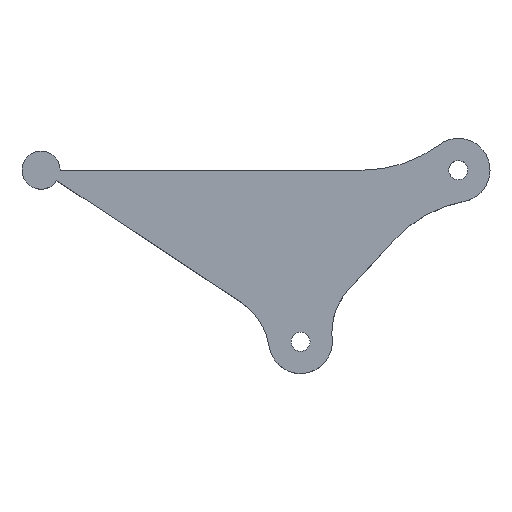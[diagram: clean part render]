
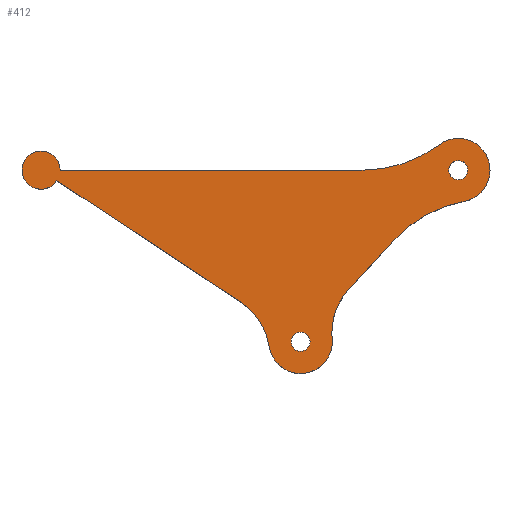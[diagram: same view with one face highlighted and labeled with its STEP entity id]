
A CAD part, top view. The second image highlights one B-rep face of the part: STEP entity #412.
In plain terms, the highlighted planar face has unit normal (0, 0, 1).
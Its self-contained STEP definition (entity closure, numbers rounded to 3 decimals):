
#25 = EDGE_CURVE ( 'NONE', #76, #529, #1094, .T. ) ;
#28 = ORIENTED_EDGE ( 'NONE', *, *, #1202, .T. ) ;
#30 = LINE ( 'NONE', #348, #1075 ) ;
#31 = DIRECTION ( 'NONE',  ( 1., 0., 0. ) ) ;
#45 = DIRECTION ( 'NONE',  ( -1., 0., 0. ) ) ;
#60 = DIRECTION ( 'NONE',  ( 0., 0., 1. ) ) ;
#76 = VERTEX_POINT ( 'NONE', #1155 ) ;
#77 = DIRECTION ( 'NONE',  ( 0., 0., 1. ) ) ;
#85 = CIRCLE ( 'NONE', #863, 5. ) ;
#90 = CARTESIAN_POINT ( 'NONE',  ( -3., 4., 12. ) ) ;
#100 = AXIS2_PLACEMENT_3D ( 'NONE', #737, #747, #561 ) ;
#102 = CARTESIAN_POINT ( 'NONE',  ( -19.9, -25.559, 12. ) ) ;
#116 = DIRECTION ( 'NONE',  ( 0., 0., -1. ) ) ;
#128 = EDGE_CURVE ( 'NONE', #529, #76, #1002, .T. ) ;
#145 = CARTESIAN_POINT ( 'NONE',  ( 0., 0., 12. ) ) ;
#151 = CARTESIAN_POINT ( 'NONE',  ( 4.581, -24.577, 12. ) ) ;
#175 = EDGE_LOOP ( 'NONE', ( #674, #1147 ) ) ;
#194 = ORIENTED_EDGE ( 'NONE', *, *, #822, .F. ) ;
#208 = CARTESIAN_POINT ( 'NONE',  ( -24.828, -27.027, 12. ) ) ;
#214 = EDGE_CURVE ( 'NONE', #883, #851, #1243, .T. ) ;
#216 = CARTESIAN_POINT ( 'NONE',  ( 0.916, -4.915, 12. ) ) ;
#223 = CARTESIAN_POINT ( 'NONE',  ( -24.828, -27.027, 12. ) ) ;
#231 = CARTESIAN_POINT ( 'NONE',  ( -9.9, -25.559, 12. ) ) ;
#234 = CIRCLE ( 'NONE', #257, 5. ) ;
#245 = CIRCLE ( 'NONE', #466, 3. ) ;
#257 = AXIS2_PLACEMENT_3D ( 'NONE', #1131, #1125, #1025 ) ;
#273 = VECTOR ( 'NONE', #1256, 1000. ) ;
#281 = DIRECTION ( 'NONE',  ( 0., 0., 1. ) ) ;
#290 = AXIS2_PLACEMENT_3D ( 'NONE', #1000, #77, #776 ) ;
#299 = CIRCLE ( 'NONE', #476, 20. ) ;
#320 = CIRCLE ( 'NONE', #626, 10. ) ;
#321 = ORIENTED_EDGE ( 'NONE', *, *, #614, .T. ) ;
#328 = ORIENTED_EDGE ( 'NONE', *, *, #788, .F. ) ;
#335 = DIRECTION ( 'NONE',  ( 0., 0., 1. ) ) ;
#337 = ORIENTED_EDGE ( 'NONE', *, *, #939, .T. ) ;
#348 = CARTESIAN_POINT ( 'NONE',  ( -19.988, -30.227, 12. ) ) ;
#353 = CARTESIAN_POINT ( 'NONE',  ( -17.264, -18.794, 12. ) ) ;
#358 = DIRECTION ( 'NONE',  ( 1., 0., 0. ) ) ;
#364 = CARTESIAN_POINT ( 'NONE',  ( -65.7, 0., 12. ) ) ;
#378 = VERTEX_POINT ( 'NONE', #590 ) ;
#385 = VERTEX_POINT ( 'NONE', #1180 ) ;
#389 = CIRCLE ( 'NONE', #667, 1.5 ) ;
#392 = DIRECTION ( 'NONE',  ( 1., 0., 0. ) ) ;
#394 = CARTESIAN_POINT ( 'NONE',  ( 1.5, 0., 12. ) ) ;
#397 = VERTEX_POINT ( 'NONE', #471 ) ;
#401 = CARTESIAN_POINT ( 'NONE',  ( -65.7, 0., 12. ) ) ;
#412 = ADVANCED_FACE ( 'NONE', ( #985, #599, #1283 ), #575, .T. ) ;
#418 = CARTESIAN_POINT ( 'NONE',  ( -63.198, -1.655, 12. ) ) ;
#426 = AXIS2_PLACEMENT_3D ( 'NONE', #441, #335, #536 ) ;
#433 = DIRECTION ( 'NONE',  ( 0., 0., 1. ) ) ;
#441 = CARTESIAN_POINT ( 'NONE',  ( 0., 0., 12. ) ) ;
#442 = ORIENTED_EDGE ( 'NONE', *, *, #728, .F. ) ;
#445 = CARTESIAN_POINT ( 'NONE',  ( -39.669, -29.202, 12. ) ) ;
#453 = CARTESIAN_POINT ( 'NONE',  ( -29.775, -27.752, 12. ) ) ;
#466 = AXIS2_PLACEMENT_3D ( 'NONE', #364, #60, #670 ) ;
#471 = CARTESIAN_POINT ( 'NONE',  ( -62.7, 0., 12. ) ) ;
#476 = AXIS2_PLACEMENT_3D ( 'NONE', #151, #1319, #1035 ) ;
#481 = VERTEX_POINT ( 'NONE', #90 ) ;
#484 = ORIENTED_EDGE ( 'NONE', *, *, #879, .T. ) ;
#490 = VERTEX_POINT ( 'NONE', #1030 ) ;
#493 = CIRCLE ( 'NONE', #100, 20. ) ;
#496 = VERTEX_POINT ( 'NONE', #1216 ) ;
#497 = CARTESIAN_POINT ( 'NONE',  ( -15., 0., 12. ) ) ;
#518 = VERTEX_POINT ( 'NONE', #102 ) ;
#522 = AXIS2_PLACEMENT_3D ( 'NONE', #906, #281, #801 ) ;
#529 = VERTEX_POINT ( 'NONE', #394 ) ;
#536 = DIRECTION ( 'NONE',  ( 1., 0., 0. ) ) ;
#545 = VERTEX_POINT ( 'NONE', #418 ) ;
#561 = DIRECTION ( 'NONE',  ( 1., 0., 0. ) ) ;
#575 = PLANE ( 'NONE',  #290 ) ;
#590 = CARTESIAN_POINT ( 'NONE',  ( -26.328, -27.027, 12. ) ) ;
#599 = FACE_OUTER_BOUND ( 'NONE', #1151, .T. ) ;
#614 = EDGE_CURVE ( 'NONE', #481, #1157, #493, .T. ) ;
#617 = VERTEX_POINT ( 'NONE', #353 ) ;
#626 = AXIS2_PLACEMENT_3D ( 'NONE', #231, #650, #657 ) ;
#634 = CARTESIAN_POINT ( 'NONE',  ( -23.328, -27.027, 12. ) ) ;
#650 = DIRECTION ( 'NONE',  ( 0., 0., -1. ) ) ;
#657 = DIRECTION ( 'NONE',  ( 1., 0., 0. ) ) ;
#667 = AXIS2_PLACEMENT_3D ( 'NONE', #223, #949, #1175 ) ;
#670 = DIRECTION ( 'NONE',  ( 1., 0., 0. ) ) ;
#674 = ORIENTED_EDGE ( 'NONE', *, *, #25, .F. ) ;
#706 = DIRECTION ( 'NONE',  ( 0., 0., 1. ) ) ;
#728 = EDGE_CURVE ( 'NONE', #496, #617, #1263, .T. ) ;
#737 = CARTESIAN_POINT ( 'NONE',  ( -15., 20., 12. ) ) ;
#747 = DIRECTION ( 'NONE',  ( 0., 0., -1. ) ) ;
#769 = DIRECTION ( 'NONE',  ( 0., 0., -1. ) ) ;
#776 = DIRECTION ( 'NONE',  ( 1., 0., 0. ) ) ;
#786 = EDGE_LOOP ( 'NONE', ( #194, #1209 ) ) ;
#788 = EDGE_CURVE ( 'NONE', #883, #545, #30, .T. ) ;
#794 = ORIENTED_EDGE ( 'NONE', *, *, #882, .T. ) ;
#795 = VECTOR ( 'NONE', #45, 1000. ) ;
#801 = DIRECTION ( 'NONE',  ( 1., 0., 0. ) ) ;
#822 = EDGE_CURVE ( 'NONE', #378, #1249, #389, .T. ) ;
#823 = ORIENTED_EDGE ( 'NONE', *, *, #214, .T. ) ;
#840 = LINE ( 'NONE', #145, #795 ) ;
#841 = EDGE_CURVE ( 'NONE', #1157, #397, #840, .T. ) ;
#847 = ORIENTED_EDGE ( 'NONE', *, *, #1104, .T. ) ;
#851 = VERTEX_POINT ( 'NONE', #453 ) ;
#863 = AXIS2_PLACEMENT_3D ( 'NONE', #208, #1339, #392 ) ;
#866 = ORIENTED_EDGE ( 'NONE', *, *, #1208, .T. ) ;
#879 = EDGE_CURVE ( 'NONE', #385, #518, #320, .T. ) ;
#882 = EDGE_CURVE ( 'NONE', #518, #617, #1091, .T. ) ;
#883 = VERTEX_POINT ( 'NONE', #1066 ) ;
#906 = CARTESIAN_POINT ( 'NONE',  ( -24.828, -27.027, 12. ) ) ;
#913 = AXIS2_PLACEMENT_3D ( 'NONE', #445, #769, #31 ) ;
#932 = AXIS2_PLACEMENT_3D ( 'NONE', #1061, #116, #358 ) ;
#934 = DIRECTION ( 'NONE',  ( -0.834, 0.552, 0. ) ) ;
#939 = EDGE_CURVE ( 'NONE', #397, #490, #245, .T. ) ;
#944 = CIRCLE ( 'NONE', #522, 1.5 ) ;
#945 = CARTESIAN_POINT ( 'NONE',  ( 0., 0., 12. ) ) ;
#949 = DIRECTION ( 'NONE',  ( 0., 0., 1. ) ) ;
#985 = FACE_BOUND ( 'NONE', #786, .T. ) ;
#1000 = CARTESIAN_POINT ( 'NONE',  ( 0., 0., 12. ) ) ;
#1002 = CIRCLE ( 'NONE', #1073, 1.5 ) ;
#1025 = DIRECTION ( 'NONE',  ( 1., 0., 0. ) ) ;
#1030 = CARTESIAN_POINT ( 'NONE',  ( -68.7, 0., 12. ) ) ;
#1035 = DIRECTION ( 'NONE',  ( 1., 0., 0. ) ) ;
#1046 = DIRECTION ( 'NONE',  ( 1., 0., 0. ) ) ;
#1051 = CARTESIAN_POINT ( 'NONE',  ( 0., 0., 12. ) ) ;
#1061 = CARTESIAN_POINT ( 'NONE',  ( -9.9, -25.559, 12. ) ) ;
#1062 = AXIS2_PLACEMENT_3D ( 'NONE', #401, #706, #1118 ) ;
#1066 = CARTESIAN_POINT ( 'NONE',  ( -34.154, -20.86, 12. ) ) ;
#1073 = AXIS2_PLACEMENT_3D ( 'NONE', #945, #433, #1046 ) ;
#1075 = VECTOR ( 'NONE', #934, 1000. ) ;
#1091 = CIRCLE ( 'NONE', #932, 10. ) ;
#1094 = CIRCLE ( 'NONE', #426, 1.5 ) ;
#1104 = EDGE_CURVE ( 'NONE', #496, #1241, #299, .T. ) ;
#1118 = DIRECTION ( 'NONE',  ( 1., 0., 0. ) ) ;
#1125 = DIRECTION ( 'NONE',  ( 0., 0., 1. ) ) ;
#1131 = CARTESIAN_POINT ( 'NONE',  ( 0., 0., 12. ) ) ;
#1136 = ORIENTED_EDGE ( 'NONE', *, *, #841, .T. ) ;
#1147 = ORIENTED_EDGE ( 'NONE', *, *, #128, .F. ) ;
#1151 = EDGE_LOOP ( 'NONE', ( #442, #847, #866, #321, #1136, #337, #28, #328, #823, #1190, #484, #794 ) ) ;
#1155 = CARTESIAN_POINT ( 'NONE',  ( -1.5, 0., 12. ) ) ;
#1157 = VERTEX_POINT ( 'NONE', #497 ) ;
#1167 = EDGE_CURVE ( 'NONE', #851, #385, #85, .T. ) ;
#1171 = EDGE_CURVE ( 'NONE', #1249, #378, #944, .T. ) ;
#1175 = DIRECTION ( 'NONE',  ( 1., 0., 0. ) ) ;
#1180 = CARTESIAN_POINT ( 'NONE',  ( -19.852, -26.538, 12. ) ) ;
#1190 = ORIENTED_EDGE ( 'NONE', *, *, #1167, .T. ) ;
#1202 = EDGE_CURVE ( 'NONE', #490, #545, #1227, .T. ) ;
#1208 = EDGE_CURVE ( 'NONE', #1241, #481, #234, .T. ) ;
#1209 = ORIENTED_EDGE ( 'NONE', *, *, #1171, .F. ) ;
#1216 = CARTESIAN_POINT ( 'NONE',  ( -10.148, -11.047, 12. ) ) ;
#1227 = CIRCLE ( 'NONE', #1062, 3. ) ;
#1241 = VERTEX_POINT ( 'NONE', #216 ) ;
#1243 = CIRCLE ( 'NONE', #913, 10. ) ;
#1249 = VERTEX_POINT ( 'NONE', #634 ) ;
#1256 = DIRECTION ( 'NONE',  ( -0.677, -0.736, 0. ) ) ;
#1263 = LINE ( 'NONE', #1051, #273 ) ;
#1283 = FACE_BOUND ( 'NONE', #175, .T. ) ;
#1319 = DIRECTION ( 'NONE',  ( 0., 0., -1. ) ) ;
#1339 = DIRECTION ( 'NONE',  ( 0., 0., 1. ) ) ;
